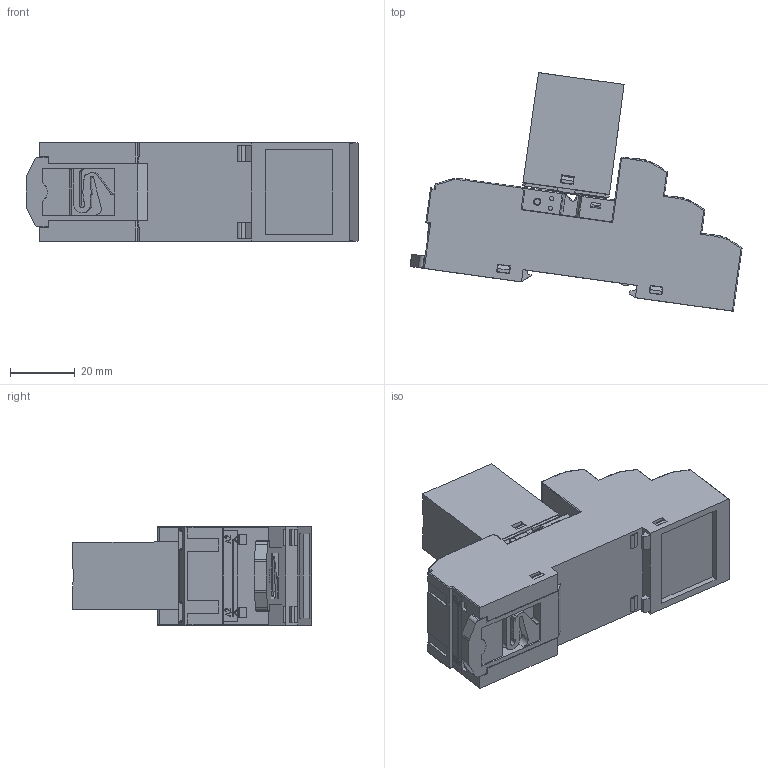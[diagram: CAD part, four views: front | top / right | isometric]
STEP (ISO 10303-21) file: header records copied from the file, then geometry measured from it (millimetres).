
FILE_DESCRIPTION (( 'STEP AP203' ), '1' );
FILE_NAME ('RKM4CO+SKC14-ST 俋倛.STEP', '2023-06-07T05:40:20', ( '' ), ( '' ), 'SwSTEP 2.0', 'SolidWorks 2018', '' );
FILE_SCHEMA (( 'CONFIG_CONTROL_DESIGN' ));
Length unit declared in the file: millimetre
Products named in the file (3): SKC14-ST; RKM4C 俋倛; RKM4CO+SKC14-ST 俋倛
Assembly tree (2 placements, depth 2):
  RKM4CO+SKC14-ST 俋倛
    SKC14-ST
    RKM4C 俋倛
Bounding box: 102.64 x 73.76 x 30.6 mm (x, y, z)
Volume: 100915.1 mm3; surface area: 24600.5 mm2
Topology: 2 solids, 6 shells, 2941 faces, 8240 edges, 5397 vertices
Faces by surface type: plane 1806, cylinder 767, bspline 198, cone 102, torus 38, sphere 30
Entity records: 104324 total; most frequent: CARTESIAN_POINT 32011, ORIENTED_EDGE 16400, DIRECTION 13161, EDGE_CURVE 8200, LINE 5627, VECTOR 5627, VERTEX_POINT 5387, AXIS2_PLACEMENT_3D 3767
